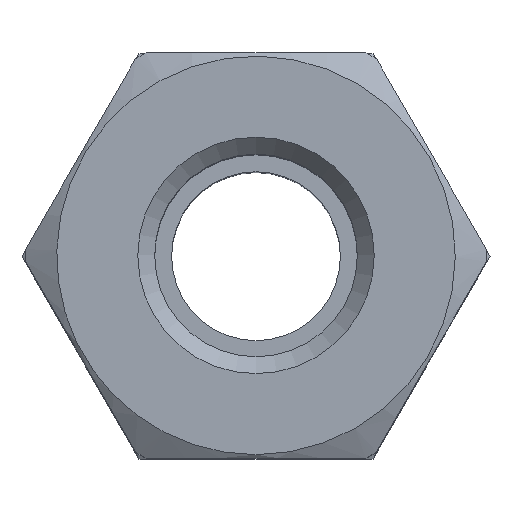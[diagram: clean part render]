
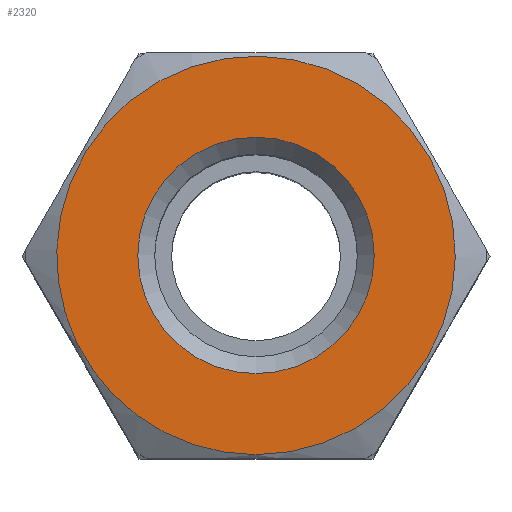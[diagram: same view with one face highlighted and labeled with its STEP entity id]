
A CAD part, top view. The second image highlights one B-rep face of the part: STEP entity #2320.
In plain terms, the highlighted planar face has unit normal (0, 0, 1).
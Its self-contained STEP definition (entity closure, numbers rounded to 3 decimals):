
#2320=ADVANCED_FACE('', (#2330,#2340), #2350, .T.);
#7090=AXIS2_PLACEMENT_3D('Ax2Pl3d', #7100, #7110, #7120);
#7770=AXIS2_PLACEMENT_3D('Ax2Pl3d', #7780, #7790, #7800);
#7810=AXIS2_PLACEMENT_3D('Ax2Pl3d', #7820, #7830, #7840);
#7100=CARTESIAN_POINT('HicPkt', (13.496,9.566,
32.293));
#11010=CARTESIAN_POINT('', (13.496,3.666,32.293));
#7780=CARTESIAN_POINT('HicPkt', (19.396,9.566,
32.293));
#7820=CARTESIAN_POINT('HicPkt', (13.496,9.566,
32.293));
#11190=CARTESIAN_POINT('', (13.496,13.066,32.293));
#11760=CIRCLE('Circle', #7090, 5.9);
#11820=CIRCLE('Circle', #7810, 3.5);
#7110=DIRECTION('Axis', (0.,0.,-1.));
#7120=DIRECTION('RefDirection', (-1.,-0.,0.));
#7790=DIRECTION('Axis', (0.,0.,1.));
#7800=DIRECTION('RefDirection', (1.,0.,-0.));
#7830=DIRECTION('Axis', (0.,0.,-1.));
#7840=DIRECTION('RefDirection', (-1.,-0.,0.));
#17580=EDGE_CURVE('', #17590, #17590, #11760, .T.);
#17950=EDGE_CURVE('', #17960, #17960, #11820, .T.);
#21150=EDGE_LOOP('Edge_loop', (#21160));
#21170=EDGE_LOOP('Edge_loop', (#21180));
#2340=FACE_BOUND('', #21170, .T.);
#2330=FACE_OUTER_BOUND('Face_outer_bound', #21150, .T.);
#21160=ORIENTED_EDGE('', *, *, #17580, .F.);
#21180=ORIENTED_EDGE('', *, *, #17950, .T.);
#2350=PLANE('Plane', #7770);
#17590=VERTEX_POINT('', #11010);
#17960=VERTEX_POINT('', #11190);
